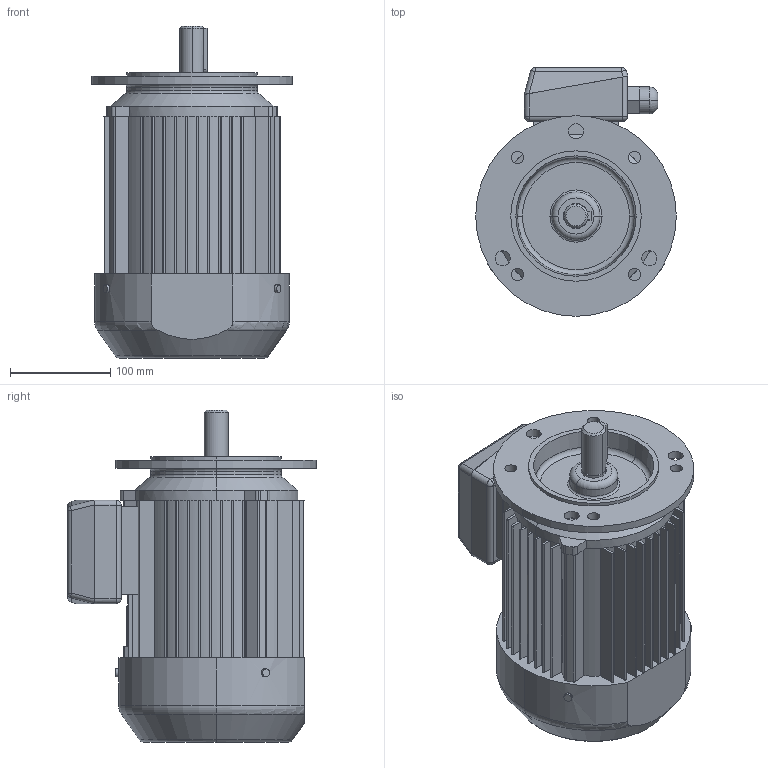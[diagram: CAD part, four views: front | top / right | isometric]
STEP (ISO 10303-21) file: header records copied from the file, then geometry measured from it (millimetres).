
FILE_DESCRIPTION (( 'STEP AP203' ), '1' );
FILE_NAME ('3SIEK90S2,4,6,L2.STEP', '2016-02-08T11:51:37', ( 'Indukta' ), ( 'Celma Indukta S.A.' ), 'SwSTEP 2.0', 'SolidWorks 2003064', '' );
FILE_SCHEMA (( 'CONFIG_CONTROL_DESIGN' ));
Length unit declared in the file: millimetre
Products named in the file (1): 3SIEK90S2,4,6,L2
Bounding box: 200 x 248 x 331 mm (x, y, z)
Volume: 6980136.2 mm3; surface area: 394894.2 mm2
Topology: 1 solids, 1 shells, 549 faces, 1458 edges, 925 vertices
Faces by surface type: plane 275, cylinder 163, bspline 78, torus 17, cone 8, sphere 8
Entity records: 23206 total; most frequent: CARTESIAN_POINT 9727, ORIENTED_EDGE 2900, DIRECTION 2652, EDGE_CURVE 1450, VERTEX_POINT 925, AXIS2_PLACEMENT_3D 906, LINE 840, VECTOR 840
